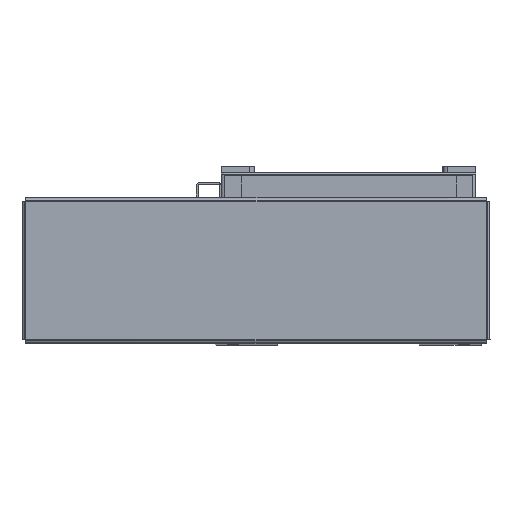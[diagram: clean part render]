
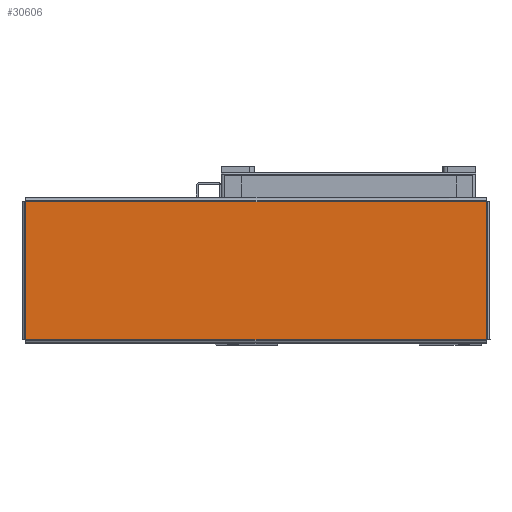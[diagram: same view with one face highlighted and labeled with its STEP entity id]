
A CAD part, top view. The second image highlights one B-rep face of the part: STEP entity #30606.
In plain terms, the highlighted planar face has unit normal (0, 0, 1) as drawn and (0, -1, 0) by its records, which use the part's own axes.
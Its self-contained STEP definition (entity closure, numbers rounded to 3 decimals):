
#51 = ORIENTED_EDGE ( 'NONE', *, *, #2256, .T. ) ;
#2187 = EDGE_CURVE ( 'NONE', #13475, #13548, #46320, .T. ) ;
#2190 = EDGE_CURVE ( 'NONE', #13474, #13520, #46318, .T. ) ;
#2256 = EDGE_CURVE ( 'NONE', #13520, #13475, #46393, .T. ) ;
#2303 = EDGE_CURVE ( 'NONE', #13548, #13474, #46471, .T. ) ;
#13474 = VERTEX_POINT ( 'NONE', #18547 ) ;
#13475 = VERTEX_POINT ( 'NONE', #18568 ) ;
#13520 = VERTEX_POINT ( 'NONE', #18641 ) ;
#13548 = VERTEX_POINT ( 'NONE', #18635 ) ;
#18547 = CARTESIAN_POINT ( 'NONE',  ( -139.263, -1.5, 41.763 ) ) ;
#18568 = CARTESIAN_POINT ( 'NONE',  ( 139.263, -1.5, -41.763 ) ) ;
#18635 = CARTESIAN_POINT ( 'NONE',  ( 139.263, -1.5, 41.763 ) ) ;
#18641 = CARTESIAN_POINT ( 'NONE',  ( -139.263, -1.5, -41.763 ) ) ;
#26686 = EDGE_LOOP ( 'NONE', ( #51167, #51193, #51166, #51 ) ) ;
#30606 = ADVANCED_FACE ( 'NONE', ( #39074 ), #41592, .F. ) ;
#31378 = CARTESIAN_POINT ( 'NONE',  ( 139.263, -1.5, -41.793 ) ) ;
#31422 = DIRECTION ( 'NONE',  ( 0., 0., -1. ) ) ;
#31432 = CARTESIAN_POINT ( 'NONE',  ( -139.263, -1.5, 41.793 ) ) ;
#31443 = DIRECTION ( 'NONE',  ( 0., 0., 1. ) ) ;
#31582 = CARTESIAN_POINT ( 'NONE',  ( -139.293, -1.5, -41.763 ) ) ;
#31586 = DIRECTION ( 'NONE',  ( 1., 0., 0. ) ) ;
#31671 = CARTESIAN_POINT ( 'NONE',  ( 139.293, -1.5, 41.763 ) ) ;
#31710 = DIRECTION ( 'NONE',  ( -1., 0., 0. ) ) ;
#39074 = FACE_OUTER_BOUND ( 'NONE', #26686, .T. ) ;
#39143 = AXIS2_PLACEMENT_3D ( 'NONE', #41622, #41597, #41609 ) ;
#41592 = PLANE ( 'NONE',  #39143 ) ;
#41597 = DIRECTION ( 'NONE',  ( 0., 1., 0. ) ) ;
#41609 = DIRECTION ( 'NONE',  ( 0., 0., 1. ) ) ;
#41622 = CARTESIAN_POINT ( 'NONE',  ( 0., -1.5, 0. ) ) ;
#46296 = VECTOR ( 'NONE', #31443, 1000. ) ;
#46315 = VECTOR ( 'NONE', #31422, 1000. ) ;
#46318 = LINE ( 'NONE', #31432, #46315 ) ;
#46320 = LINE ( 'NONE', #31378, #46296 ) ;
#46393 = LINE ( 'NONE', #31582, #46426 ) ;
#46426 = VECTOR ( 'NONE', #31586, 1000. ) ;
#46471 = LINE ( 'NONE', #31671, #46486 ) ;
#46486 = VECTOR ( 'NONE', #31710, 1000. ) ;
#51166 = ORIENTED_EDGE ( 'NONE', *, *, #2190, .T. ) ;
#51167 = ORIENTED_EDGE ( 'NONE', *, *, #2187, .T. ) ;
#51193 = ORIENTED_EDGE ( 'NONE', *, *, #2303, .T. ) ;
